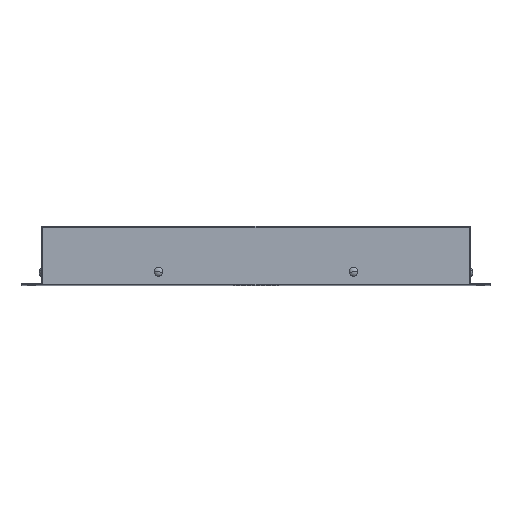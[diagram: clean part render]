
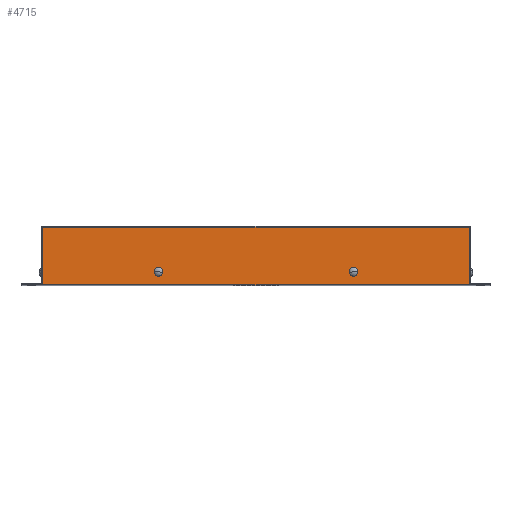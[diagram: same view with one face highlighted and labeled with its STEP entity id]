
A CAD part, top view. The second image highlights one B-rep face of the part: STEP entity #4715.
In plain terms, the highlighted planar face has unit normal (0, 0, 1).
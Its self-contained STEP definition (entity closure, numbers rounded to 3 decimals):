
#45 = EDGE_CURVE ( 'NONE', #2180, #1496, #5036, .T. ) ;
#71 = CIRCLE ( 'NONE', #4711, 3.45 ) ;
#331 = CARTESIAN_POINT ( 'NONE',  ( 74.351, 13.388, 265. ) ) ;
#338 = VECTOR ( 'NONE', #4791, 1000. ) ;
#440 = LINE ( 'NONE', #4511, #2480 ) ;
#613 = VERTEX_POINT ( 'NONE', #3461 ) ;
#698 = ORIENTED_EDGE ( 'NONE', *, *, #5485, .F. ) ;
#824 = DIRECTION ( 'NONE',  ( 0., 0., 1. ) ) ;
#856 = CARTESIAN_POINT ( 'NONE',  ( -75., 10., 265. ) ) ;
#862 = CARTESIAN_POINT ( 'NONE',  ( 75., 10., 265. ) ) ;
#913 = AXIS2_PLACEMENT_3D ( 'NONE', #2924, #4253, #1233 ) ;
#967 = CIRCLE ( 'NONE', #2460, 3.45 ) ;
#1009 = VERTEX_POINT ( 'NONE', #5051 ) ;
#1071 = CARTESIAN_POINT ( 'NONE',  ( -165., 44., 265. ) ) ;
#1092 = CIRCLE ( 'NONE', #3317, 3.45 ) ;
#1094 = CARTESIAN_POINT ( 'NONE',  ( 75.649, 6.612, 265. ) ) ;
#1177 = CARTESIAN_POINT ( 'NONE',  ( -164., 0., 265. ) ) ;
#1191 = EDGE_LOOP ( 'NONE', ( #4690, #5003 ) ) ;
#1228 = ORIENTED_EDGE ( 'NONE', *, *, #45, .T. ) ;
#1233 = DIRECTION ( 'NONE',  ( 0., -1., 0. ) ) ;
#1288 = VECTOR ( 'NONE', #5210, 1000. ) ;
#1490 = ORIENTED_EDGE ( 'NONE', *, *, #4317, .T. ) ;
#1496 = VERTEX_POINT ( 'NONE', #2890 ) ;
#1599 = EDGE_CURVE ( 'NONE', #1009, #5677, #967, .T. ) ;
#1617 = LINE ( 'NONE', #3037, #338 ) ;
#1733 = DIRECTION ( 'NONE',  ( -0.188, -0.982, 0. ) ) ;
#1746 = EDGE_LOOP ( 'NONE', ( #5312, #1490, #1228, #5463 ) ) ;
#1799 = DIRECTION ( 'NONE',  ( 0., 0., 1. ) ) ;
#2180 = VERTEX_POINT ( 'NONE', #4965 ) ;
#2264 = DIRECTION ( 'NONE',  ( -0.188, 0.982, 0. ) ) ;
#2460 = AXIS2_PLACEMENT_3D ( 'NONE', #856, #3022, #5723 ) ;
#2480 = VECTOR ( 'NONE', #4943, 1000. ) ;
#2846 = VECTOR ( 'NONE', #5347, 1000. ) ;
#2890 = CARTESIAN_POINT ( 'NONE',  ( -164., 44., 265. ) ) ;
#2907 = VERTEX_POINT ( 'NONE', #1094 ) ;
#2924 = CARTESIAN_POINT ( 'NONE',  ( -165., 0., 265. ) ) ;
#2949 = PLANE ( 'NONE',  #913 ) ;
#2981 = FACE_OUTER_BOUND ( 'NONE', #1746, .T. ) ;
#3016 = CARTESIAN_POINT ( 'NONE',  ( 75., 10., 265. ) ) ;
#3022 = DIRECTION ( 'NONE',  ( 0., 0., 1. ) ) ;
#3037 = CARTESIAN_POINT ( 'NONE',  ( 164., 0., 265. ) ) ;
#3317 = AXIS2_PLACEMENT_3D ( 'NONE', #4553, #824, #1733 ) ;
#3461 = CARTESIAN_POINT ( 'NONE',  ( 164., 0., 265. ) ) ;
#3667 = EDGE_CURVE ( 'NONE', #4590, #2907, #4655, .T. ) ;
#3795 = FACE_BOUND ( 'NONE', #1191, .T. ) ;
#3809 = EDGE_CURVE ( 'NONE', #5677, #1009, #1092, .T. ) ;
#3881 = LINE ( 'NONE', #4311, #1288 ) ;
#3973 = EDGE_CURVE ( 'NONE', #4754, #613, #440, .T. ) ;
#4026 = CARTESIAN_POINT ( 'NONE',  ( -74.351, 13.388, 265. ) ) ;
#4253 = DIRECTION ( 'NONE',  ( 0., 0., 1. ) ) ;
#4304 = FACE_BOUND ( 'NONE', #4379, .T. ) ;
#4311 = CARTESIAN_POINT ( 'NONE',  ( -164., 0., 265. ) ) ;
#4317 = EDGE_CURVE ( 'NONE', #613, #2180, #1617, .T. ) ;
#4379 = EDGE_LOOP ( 'NONE', ( #4503, #698 ) ) ;
#4461 = AXIS2_PLACEMENT_3D ( 'NONE', #862, #1799, #2264 ) ;
#4503 = ORIENTED_EDGE ( 'NONE', *, *, #3667, .F. ) ;
#4511 = CARTESIAN_POINT ( 'NONE',  ( -165., 0., 265. ) ) ;
#4553 = CARTESIAN_POINT ( 'NONE',  ( -75., 10., 265. ) ) ;
#4590 = VERTEX_POINT ( 'NONE', #331 ) ;
#4655 = CIRCLE ( 'NONE', #4461, 3.45 ) ;
#4690 = ORIENTED_EDGE ( 'NONE', *, *, #1599, .F. ) ;
#4711 = AXIS2_PLACEMENT_3D ( 'NONE', #3016, #4745, #5148 ) ;
#4715 = ADVANCED_FACE ( 'NONE', ( #3795, #4304, #2981 ), #2949, .T. ) ;
#4745 = DIRECTION ( 'NONE',  ( 0., 0., 1. ) ) ;
#4754 = VERTEX_POINT ( 'NONE', #1177 ) ;
#4791 = DIRECTION ( 'NONE',  ( 0., 1., 0. ) ) ;
#4943 = DIRECTION ( 'NONE',  ( 1., 0., 0. ) ) ;
#4965 = CARTESIAN_POINT ( 'NONE',  ( 164., 44., 265. ) ) ;
#5003 = ORIENTED_EDGE ( 'NONE', *, *, #3809, .F. ) ;
#5036 = LINE ( 'NONE', #1071, #2846 ) ;
#5051 = CARTESIAN_POINT ( 'NONE',  ( -75.649, 6.612, 265. ) ) ;
#5148 = DIRECTION ( 'NONE',  ( -0.188, 0.982, 0. ) ) ;
#5210 = DIRECTION ( 'NONE',  ( 0., -1., 0. ) ) ;
#5312 = ORIENTED_EDGE ( 'NONE', *, *, #3973, .T. ) ;
#5347 = DIRECTION ( 'NONE',  ( -1., 0., 0. ) ) ;
#5463 = ORIENTED_EDGE ( 'NONE', *, *, #5502, .T. ) ;
#5485 = EDGE_CURVE ( 'NONE', #2907, #4590, #71, .T. ) ;
#5502 = EDGE_CURVE ( 'NONE', #1496, #4754, #3881, .T. ) ;
#5677 = VERTEX_POINT ( 'NONE', #4026 ) ;
#5723 = DIRECTION ( 'NONE',  ( -0.188, -0.982, 0. ) ) ;
